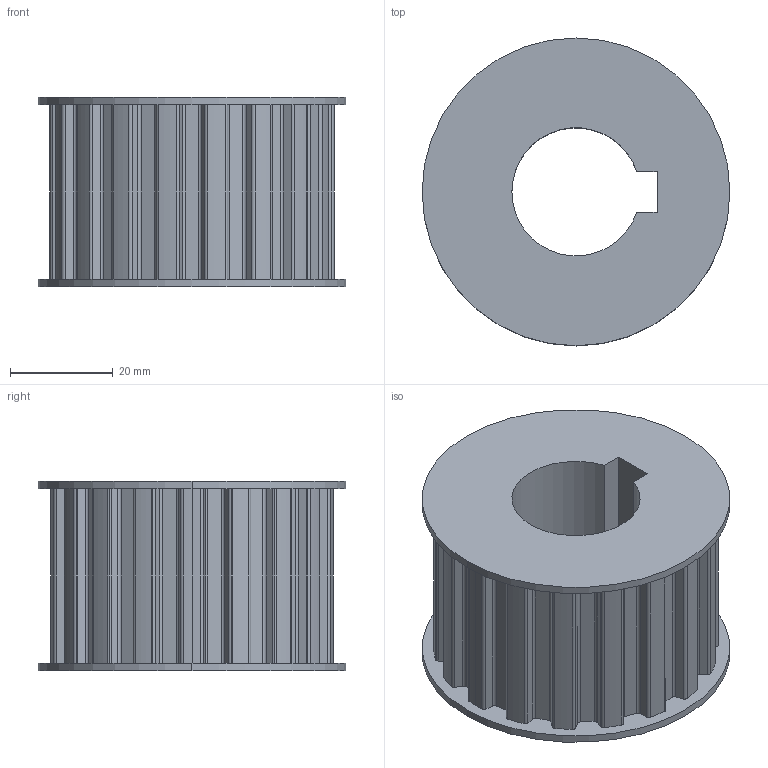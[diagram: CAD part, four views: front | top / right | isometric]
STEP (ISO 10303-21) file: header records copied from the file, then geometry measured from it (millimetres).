
FILE_DESCRIPTION (( 'STEP AP203' ), '1' );
FILE_NAME ('084.812.016.STEP', '2015-02-11T08:20:33', ( '' ), ( '' ), 'SwSTEP 2.0', 'SolidWorks 2012', '' );
FILE_SCHEMA (( 'CONFIG_CONTROL_DESIGN' ));
Length unit declared in the file: millimetre
Products named in the file (1): 084.812.016
Bounding box: 60 x 60 x 37 mm (x, y, z)
Volume: 64759.6 mm3; surface area: 17241.6 mm2
Topology: 1 solids, 1 shells, 170 faces, 498 edges, 332 vertices
Faces by surface type: cylinder 109, plane 61
Entity records: 5821 total; most frequent: DIRECTION 1058, CARTESIAN_POINT 1001, ORIENTED_EDGE 996, EDGE_CURVE 498, AXIS2_PLACEMENT_3D 389, VERTEX_POINT 332, LINE 280, VECTOR 280
